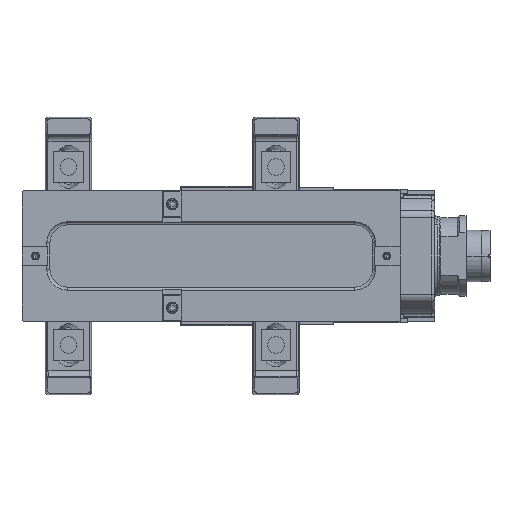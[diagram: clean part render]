
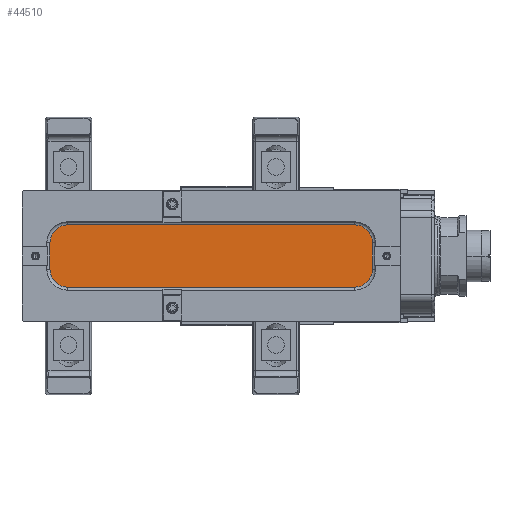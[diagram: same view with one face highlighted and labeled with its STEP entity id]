
A CAD part, front view. The second image highlights one B-rep face of the part: STEP entity #44510.
In plain terms, the highlighted planar face has unit normal (0, -1, 0).
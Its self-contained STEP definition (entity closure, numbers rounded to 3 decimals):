
#680 = CARTESIAN_POINT ( 'NONE',  ( 176., -59., -30. ) ) ;
#1210 = DIRECTION ( 'NONE',  ( 0., -1., 0. ) ) ;
#1304 = VERTEX_POINT ( 'NONE', #14344 ) ;
#3023 = CARTESIAN_POINT ( 'NONE',  ( -101., -59., 30. ) ) ;
#3831 = CARTESIAN_POINT ( 'NONE',  ( 193., -59., -13. ) ) ;
#3838 = AXIS2_PLACEMENT_3D ( 'NONE', #32547, #61017, #60097 ) ;
#5084 = EDGE_CURVE ( 'NONE', #38692, #11065, #33014, .T. ) ;
#5756 = VERTEX_POINT ( 'NONE', #3831 ) ;
#6763 = CIRCLE ( 'NONE', #41663, 17. ) ;
#6858 = VECTOR ( 'NONE', #31170, 1000. ) ;
#7671 = DIRECTION ( 'NONE',  ( 0., 0., -1. ) ) ;
#7677 = EDGE_LOOP ( 'NONE', ( #54301, #14751, #25015, #41340, #38625, #7808, #49073, #57058 ) ) ;
#7808 = ORIENTED_EDGE ( 'NONE', *, *, #10341, .T. ) ;
#10341 = EDGE_CURVE ( 'NONE', #1304, #29216, #35868, .T. ) ;
#10608 = EDGE_CURVE ( 'NONE', #18975, #5756, #51768, .T. ) ;
#10754 = CARTESIAN_POINT ( 'NONE',  ( -101., -59., -30. ) ) ;
#11065 = VERTEX_POINT ( 'NONE', #3023 ) ;
#13413 = VECTOR ( 'NONE', #27344, 1000. ) ;
#13637 = DIRECTION ( 'NONE',  ( -1., 0., 0. ) ) ;
#13714 = EDGE_CURVE ( 'NONE', #11065, #1304, #6763, .T. ) ;
#14344 = CARTESIAN_POINT ( 'NONE',  ( -118., -59., 13. ) ) ;
#14589 = DIRECTION ( 'NONE',  ( 0., 0., -1. ) ) ;
#14751 = ORIENTED_EDGE ( 'NONE', *, *, #16718, .T. ) ;
#16718 = EDGE_CURVE ( 'NONE', #5756, #26786, #56788, .T. ) ;
#16842 = DIRECTION ( 'NONE',  ( 0., -1., 0. ) ) ;
#17401 = CARTESIAN_POINT ( 'NONE',  ( 0., -59., 30. ) ) ;
#18975 = VERTEX_POINT ( 'NONE', #680 ) ;
#19265 = FACE_OUTER_BOUND ( 'NONE', #7677, .T. ) ;
#21131 = CARTESIAN_POINT ( 'NONE',  ( -118., -59., 0. ) ) ;
#21730 = EDGE_CURVE ( 'NONE', #26786, #38692, #34469, .T. ) ;
#25015 = ORIENTED_EDGE ( 'NONE', *, *, #21730, .T. ) ;
#26786 = VERTEX_POINT ( 'NONE', #54136 ) ;
#27255 = EDGE_CURVE ( 'NONE', #50007, #18975, #60821, .T. ) ;
#27344 = DIRECTION ( 'NONE',  ( 1., 0., 0. ) ) ;
#29216 = VERTEX_POINT ( 'NONE', #47558 ) ;
#29819 = AXIS2_PLACEMENT_3D ( 'NONE', #60244, #36475, #36790 ) ;
#31170 = DIRECTION ( 'NONE',  ( 0., 0., -1. ) ) ;
#32547 = CARTESIAN_POINT ( 'NONE',  ( -101., -59., -13. ) ) ;
#33014 = LINE ( 'NONE', #17401, #51267 ) ;
#33068 = AXIS2_PLACEMENT_3D ( 'NONE', #48384, #1210, #14589 ) ;
#33479 = AXIS2_PLACEMENT_3D ( 'NONE', #59713, #16842, #50646 ) ;
#34469 = CIRCLE ( 'NONE', #33479, 17. ) ;
#35800 = CIRCLE ( 'NONE', #3838, 17. ) ;
#35868 = LINE ( 'NONE', #21131, #6858 ) ;
#36445 = CARTESIAN_POINT ( 'NONE',  ( 0., -59., -30. ) ) ;
#36475 = DIRECTION ( 'NONE',  ( 0., -1., 0. ) ) ;
#36790 = DIRECTION ( 'NONE',  ( 0., 0., -1. ) ) ;
#38625 = ORIENTED_EDGE ( 'NONE', *, *, #13714, .T. ) ;
#38692 = VERTEX_POINT ( 'NONE', #56957 ) ;
#41340 = ORIENTED_EDGE ( 'NONE', *, *, #5084, .T. ) ;
#41663 = AXIS2_PLACEMENT_3D ( 'NONE', #59225, #59842, #7671 ) ;
#43920 = VECTOR ( 'NONE', #56474, 1000. ) ;
#44510 = ADVANCED_FACE ( 'NONE', ( #19265 ), #53065, .T. ) ;
#46491 = CARTESIAN_POINT ( 'NONE',  ( 193., -59., 0. ) ) ;
#47558 = CARTESIAN_POINT ( 'NONE',  ( -118., -59., -13. ) ) ;
#48384 = CARTESIAN_POINT ( 'NONE',  ( 0., -59., 0. ) ) ;
#49073 = ORIENTED_EDGE ( 'NONE', *, *, #53831, .T. ) ;
#50007 = VERTEX_POINT ( 'NONE', #10754 ) ;
#50646 = DIRECTION ( 'NONE',  ( 0., 0., -1. ) ) ;
#51267 = VECTOR ( 'NONE', #13637, 1000. ) ;
#51768 = CIRCLE ( 'NONE', #29819, 17. ) ;
#53065 = PLANE ( 'NONE',  #33068 ) ;
#53831 = EDGE_CURVE ( 'NONE', #29216, #50007, #35800, .T. ) ;
#54136 = CARTESIAN_POINT ( 'NONE',  ( 193., -59., 13. ) ) ;
#54301 = ORIENTED_EDGE ( 'NONE', *, *, #10608, .T. ) ;
#56474 = DIRECTION ( 'NONE',  ( 0., 0., 1. ) ) ;
#56788 = LINE ( 'NONE', #46491, #43920 ) ;
#56957 = CARTESIAN_POINT ( 'NONE',  ( 176., -59., 30. ) ) ;
#57058 = ORIENTED_EDGE ( 'NONE', *, *, #27255, .T. ) ;
#59225 = CARTESIAN_POINT ( 'NONE',  ( -101., -59., 13. ) ) ;
#59713 = CARTESIAN_POINT ( 'NONE',  ( 176., -59., 13. ) ) ;
#59842 = DIRECTION ( 'NONE',  ( 0., -1., 0. ) ) ;
#60097 = DIRECTION ( 'NONE',  ( 0., 0., -1. ) ) ;
#60244 = CARTESIAN_POINT ( 'NONE',  ( 176., -59., -13. ) ) ;
#60821 = LINE ( 'NONE', #36445, #13413 ) ;
#61017 = DIRECTION ( 'NONE',  ( 0., -1., 0. ) ) ;
